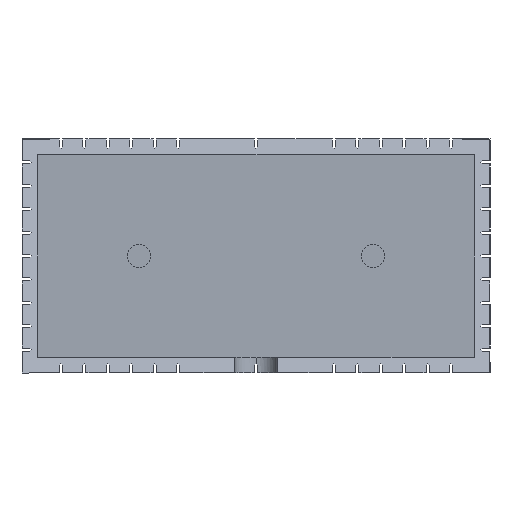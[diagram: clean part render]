
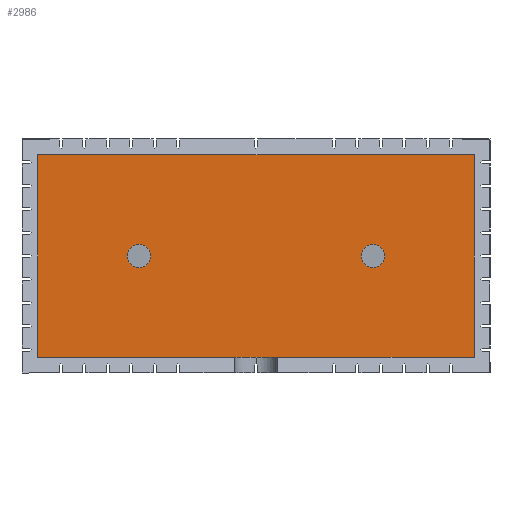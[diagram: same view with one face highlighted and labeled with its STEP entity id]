
A CAD part, left-side view. The second image highlights one B-rep face of the part: STEP entity #2986.
In plain terms, the highlighted planar face has unit normal (-1, 0, 0).
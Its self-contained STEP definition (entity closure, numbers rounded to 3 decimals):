
#57 = VERTEX_POINT ( 'NONE', #5715 ) ;
#124 = VECTOR ( 'NONE', #5126, 1000. ) ;
#233 = CARTESIAN_POINT ( 'NONE',  ( -183.834, 28., 13. ) ) ;
#246 = CIRCLE ( 'NONE', #5961, 1.5 ) ;
#535 = CARTESIAN_POINT ( 'NONE',  ( -183.834, -15., 0. ) ) ;
#589 = CARTESIAN_POINT ( 'NONE',  ( -183.834, 15., 0. ) ) ;
#722 = DIRECTION ( 'NONE',  ( -1., 0., 0. ) ) ;
#806 = ORIENTED_EDGE ( 'NONE', *, *, #4995, .F. ) ;
#814 = EDGE_CURVE ( 'NONE', #2163, #3559, #6139, .T. ) ;
#908 = DIRECTION ( 'NONE',  ( 0., 0., -1. ) ) ;
#918 = ORIENTED_EDGE ( 'NONE', *, *, #1248, .F. ) ;
#943 = VERTEX_POINT ( 'NONE', #6439 ) ;
#1048 = LINE ( 'NONE', #2364, #124 ) ;
#1080 = VERTEX_POINT ( 'NONE', #2188 ) ;
#1133 = AXIS2_PLACEMENT_3D ( 'NONE', #1892, #6954, #6425 ) ;
#1248 = EDGE_CURVE ( 'NONE', #943, #1584, #3714, .T. ) ;
#1250 = DIRECTION ( 'NONE',  ( 0., 0., -1. ) ) ;
#1433 = EDGE_CURVE ( 'NONE', #3559, #5799, #2076, .T. ) ;
#1442 = ORIENTED_EDGE ( 'NONE', *, *, #5304, .F. ) ;
#1454 = CARTESIAN_POINT ( 'NONE',  ( -183.834, 0., 0. ) ) ;
#1502 = DIRECTION ( 'NONE',  ( 0., 0., -1. ) ) ;
#1584 = VERTEX_POINT ( 'NONE', #6795 ) ;
#1623 = AXIS2_PLACEMENT_3D ( 'NONE', #3578, #722, #5237 ) ;
#1892 = CARTESIAN_POINT ( 'NONE',  ( -183.834, -15., 0. ) ) ;
#2076 = LINE ( 'NONE', #6060, #4987 ) ;
#2086 = AXIS2_PLACEMENT_3D ( 'NONE', #1454, #5899, #908 ) ;
#2163 = VERTEX_POINT ( 'NONE', #4735 ) ;
#2188 = CARTESIAN_POINT ( 'NONE',  ( -183.834, 15., 1.5 ) ) ;
#2290 = CARTESIAN_POINT ( 'NONE',  ( -183.834, -28., 0. ) ) ;
#2291 = CARTESIAN_POINT ( 'NONE',  ( -183.834, 28., -13. ) ) ;
#2364 = CARTESIAN_POINT ( 'NONE',  ( -183.834, 28., -13. ) ) ;
#2580 = ORIENTED_EDGE ( 'NONE', *, *, #1433, .T. ) ;
#2779 = DIRECTION ( 'NONE',  ( -1., 0., 0. ) ) ;
#2986 = ADVANCED_FACE ( 'NONE', ( #7021, #4239, #6455 ), #7092, .F. ) ;
#3143 = EDGE_CURVE ( 'NONE', #6834, #1080, #7012, .T. ) ;
#3224 = DIRECTION ( 'NONE',  ( 0., 0., -1. ) ) ;
#3427 = DIRECTION ( 'NONE',  ( 0., 1., 0. ) ) ;
#3487 = EDGE_LOOP ( 'NONE', ( #4465, #4387, #3779, #2580 ) ) ;
#3559 = VERTEX_POINT ( 'NONE', #233 ) ;
#3578 = CARTESIAN_POINT ( 'NONE',  ( -183.834, 15., 0. ) ) ;
#3714 = CIRCLE ( 'NONE', #1133, 1.5 ) ;
#3779 = ORIENTED_EDGE ( 'NONE', *, *, #814, .T. ) ;
#4137 = EDGE_CURVE ( 'NONE', #2163, #57, #4393, .T. ) ;
#4239 = FACE_BOUND ( 'NONE', #5616, .T. ) ;
#4320 = DIRECTION ( 'NONE',  ( 0., 0., -1. ) ) ;
#4387 = ORIENTED_EDGE ( 'NONE', *, *, #4137, .F. ) ;
#4393 = LINE ( 'NONE', #2290, #5945 ) ;
#4450 = AXIS2_PLACEMENT_3D ( 'NONE', #589, #5155, #1250 ) ;
#4465 = ORIENTED_EDGE ( 'NONE', *, *, #4584, .T. ) ;
#4561 = CIRCLE ( 'NONE', #4450, 1.5 ) ;
#4584 = EDGE_CURVE ( 'NONE', #5799, #57, #1048, .T. ) ;
#4735 = CARTESIAN_POINT ( 'NONE',  ( -183.834, -28., 13. ) ) ;
#4930 = CARTESIAN_POINT ( 'NONE',  ( -183.834, 15., -1.5 ) ) ;
#4987 = VECTOR ( 'NONE', #4320, 1000. ) ;
#4995 = EDGE_CURVE ( 'NONE', #1080, #6834, #4561, .T. ) ;
#5126 = DIRECTION ( 'NONE',  ( 0., -1., 0. ) ) ;
#5155 = DIRECTION ( 'NONE',  ( -1., 0., 0. ) ) ;
#5189 = ORIENTED_EDGE ( 'NONE', *, *, #3143, .F. ) ;
#5237 = DIRECTION ( 'NONE',  ( 0., 0., -1. ) ) ;
#5304 = EDGE_CURVE ( 'NONE', #1584, #943, #246, .T. ) ;
#5616 = EDGE_LOOP ( 'NONE', ( #5189, #806 ) ) ;
#5715 = CARTESIAN_POINT ( 'NONE',  ( -183.834, -28., -13. ) ) ;
#5799 = VERTEX_POINT ( 'NONE', #2291 ) ;
#5899 = DIRECTION ( 'NONE',  ( 1., 0., 0. ) ) ;
#5945 = VECTOR ( 'NONE', #3224, 1000. ) ;
#5961 = AXIS2_PLACEMENT_3D ( 'NONE', #535, #2779, #1502 ) ;
#6060 = CARTESIAN_POINT ( 'NONE',  ( -183.834, 28., 13. ) ) ;
#6139 = LINE ( 'NONE', #6776, #6402 ) ;
#6357 = EDGE_LOOP ( 'NONE', ( #1442, #918 ) ) ;
#6402 = VECTOR ( 'NONE', #3427, 1000. ) ;
#6425 = DIRECTION ( 'NONE',  ( 0., 0., -1. ) ) ;
#6439 = CARTESIAN_POINT ( 'NONE',  ( -183.834, -15., 1.5 ) ) ;
#6455 = FACE_BOUND ( 'NONE', #6357, .T. ) ;
#6776 = CARTESIAN_POINT ( 'NONE',  ( -183.834, 0., 13. ) ) ;
#6795 = CARTESIAN_POINT ( 'NONE',  ( -183.834, -15., -1.5 ) ) ;
#6834 = VERTEX_POINT ( 'NONE', #4930 ) ;
#6954 = DIRECTION ( 'NONE',  ( -1., 0., 0. ) ) ;
#7012 = CIRCLE ( 'NONE', #1623, 1.5 ) ;
#7021 = FACE_OUTER_BOUND ( 'NONE', #3487, .T. ) ;
#7092 = PLANE ( 'NONE',  #2086 ) ;
